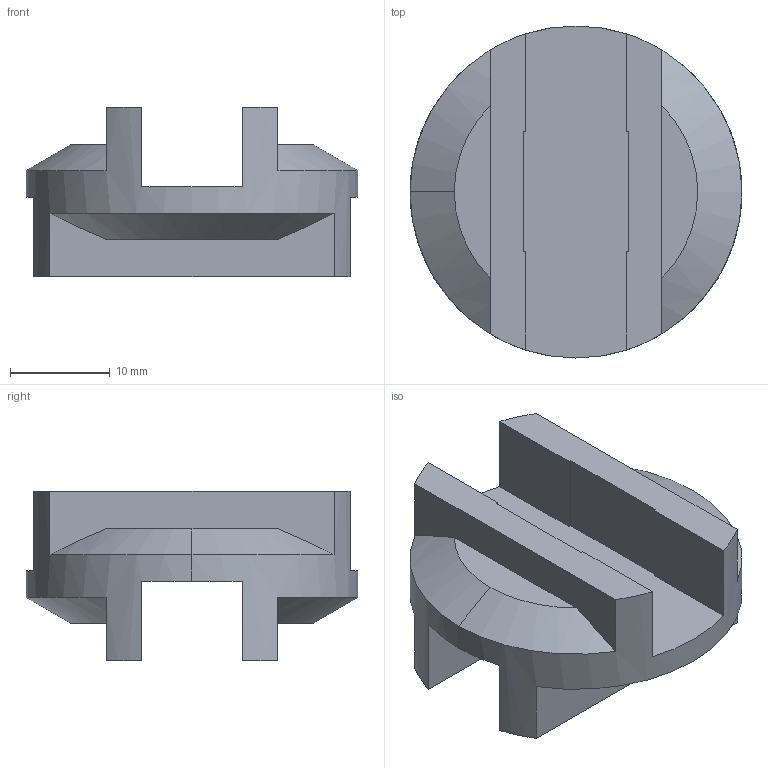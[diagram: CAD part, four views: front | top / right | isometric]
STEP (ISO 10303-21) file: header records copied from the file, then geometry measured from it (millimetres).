
FILE_DESCRIPTION((''),'2;1');
FILE_NAME('OD21-33','2016-09-09T',('SYSTEM'),(''),'PRO/ENGINEER BY PARAMETRIC TECHNOLOGY CORPORATION, 2015110','PRO/ENGINEER BY PARAMETRIC TECHNOLOGY CORPORATION, 2015110','');
FILE_SCHEMA(('AUTOMOTIVE_DESIGN { 1 0 10303 214 1 1 1 1 }'));
Length unit declared in the file: inch
Products named in the file (1): OD21-33
Bounding box: 33.34 x 33.34 x 17.07 mm (x, y, z)
Volume: 6365 mm3; surface area: 3928.4 mm2
Topology: 1 solids, 1 shells, 41 faces, 117 edges, 78 vertices
Faces by surface type: plane 34, cone 5, cylinder 2
Entity records: 1705 total; most frequent: CARTESIAN_POINT 272, ORIENTED_EDGE 234, DIRECTION 217, EDGE_CURVE 117, VECTOR 83, LINE 83, VERTEX_POINT 78, AXIS2_PLACEMENT_3D 67
